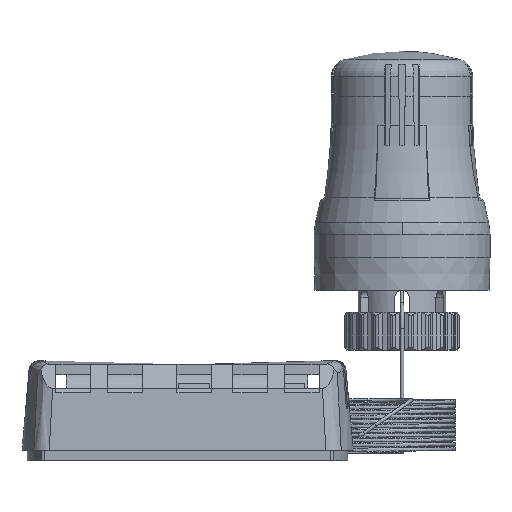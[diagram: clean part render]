
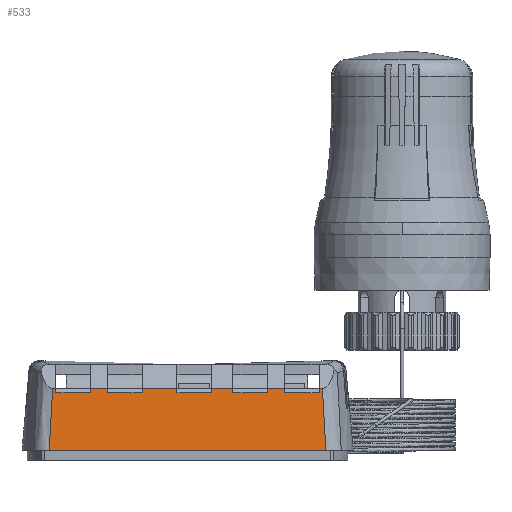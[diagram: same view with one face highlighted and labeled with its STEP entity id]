
A CAD part, left-side view. The second image highlights one B-rep face of the part: STEP entity #533.
In plain terms, the highlighted planar face has unit normal (-0.996, 0, 0.087).
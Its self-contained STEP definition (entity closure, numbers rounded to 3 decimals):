
#533=ADVANCED_FACE('',(#9763),#9765,.T.);
#9763=FACE_BOUND('',#9764,.T.);
#9764=EDGE_LOOP('',(#13633,#13634,#13635,#13636,#13637,#13638,#13639,#13640,#13641,
#13642,#13643,#13644,#13645,#13646,#13647,#13648,#13649,#13650,#13651,#13652,#13653,
#13654,#13655,#13656));
#9765=PLANE('',#9766);
#9766=AXIS2_PLACEMENT_3D('',#9767,#9768,#9769);
#9767=CARTESIAN_POINT('',(-130.803,105.18,-46.38));
#9768=DIRECTION('',(-0.996,0.,0.087));
#9769=DIRECTION('',(0.,-1.,0.));
#13633=ORIENTED_EDGE('',*,*,#15855,.T.);
#13634=ORIENTED_EDGE('',*,*,#15856,.F.);
#13635=ORIENTED_EDGE('',*,*,#15857,.T.);
#13636=ORIENTED_EDGE('',*,*,#15858,.F.);
#13637=ORIENTED_EDGE('',*,*,#15859,.T.);
#13638=ORIENTED_EDGE('',*,*,#15860,.F.);
#13639=ORIENTED_EDGE('',*,*,#15861,.T.);
#13640=ORIENTED_EDGE('',*,*,#15862,.F.);
#13641=ORIENTED_EDGE('',*,*,#15863,.T.);
#13642=ORIENTED_EDGE('',*,*,#15864,.F.);
#13643=ORIENTED_EDGE('',*,*,#15865,.T.);
#13644=ORIENTED_EDGE('',*,*,#15866,.F.);
#13645=ORIENTED_EDGE('',*,*,#15867,.T.);
#13646=ORIENTED_EDGE('',*,*,#15868,.F.);
#13647=ORIENTED_EDGE('',*,*,#15869,.T.);
#13648=ORIENTED_EDGE('',*,*,#15870,.F.);
#13649=ORIENTED_EDGE('',*,*,#15560,.T.);
#13650=ORIENTED_EDGE('',*,*,#15852,.T.);
#13651=ORIENTED_EDGE('',*,*,#15871,.T.);
#13652=ORIENTED_EDGE('',*,*,#15872,.F.);
#13653=ORIENTED_EDGE('',*,*,#15873,.T.);
#13654=ORIENTED_EDGE('',*,*,#15874,.F.);
#13655=ORIENTED_EDGE('',*,*,#15875,.T.);
#13656=ORIENTED_EDGE('',*,*,#15876,.F.);
#15560=EDGE_CURVE('',#18046,#18044,#18047,.T.);
#15852=EDGE_CURVE('',#18044,#18520,#18521,.T.);
#15855=EDGE_CURVE('',#18525,#18526,#18527,.F.);
#15856=EDGE_CURVE('',#18528,#18526,#18529,.F.);
#15857=EDGE_CURVE('',#18528,#18530,#18531,.F.);
#15858=EDGE_CURVE('',#18532,#18530,#18533,.T.);
#15859=EDGE_CURVE('',#18532,#18534,#18535,.F.);
#15860=EDGE_CURVE('',#18536,#18534,#18537,.F.);
#15861=EDGE_CURVE('',#18536,#18538,#18539,.F.);
#15862=EDGE_CURVE('',#18540,#18538,#18541,.T.);
#15863=EDGE_CURVE('',#18540,#18542,#18543,.F.);
#15864=EDGE_CURVE('',#18544,#18542,#18545,.F.);
#15865=EDGE_CURVE('',#18544,#18546,#18547,.F.);
#15866=EDGE_CURVE('',#18548,#18546,#18549,.T.);
#15867=EDGE_CURVE('',#18548,#18550,#18551,.F.);
#15868=EDGE_CURVE('',#18552,#18550,#18553,.F.);
#15869=EDGE_CURVE('',#18552,#18554,#18555,.F.);
#15870=EDGE_CURVE('',#18046,#18554,#18556,.T.);
#15871=EDGE_CURVE('',#18520,#18557,#18558,.F.);
#15872=EDGE_CURVE('',#18559,#18557,#18560,.T.);
#15873=EDGE_CURVE('',#18559,#18561,#18562,.F.);
#15874=EDGE_CURVE('',#18563,#18561,#18564,.F.);
#15875=EDGE_CURVE('',#18563,#18565,#18566,.F.);
#15876=EDGE_CURVE('',#18525,#18565,#18567,.T.);
#18044=VERTEX_POINT('',#28155);
#18046=VERTEX_POINT('',#28199);
#18047=LINE('',#28200,#28201);
#18520=VERTEX_POINT('',#30602);
#18521=B_SPLINE_CURVE_WITH_KNOTS('',3,
(#30603,#30604,#30605,#30606,#30607,#30608),
.UNSPECIFIED.,.F.,.F.,
(4,1,1,4),
(0.,0.333,0.667,1.),
.UNSPECIFIED.);
#18525=VERTEX_POINT('',#30671);
#18526=VERTEX_POINT('',#30672);
#18527=LINE('',#30673,#30674);
#18528=VERTEX_POINT('',#30676);
#18529=LINE('',#30677,#30678);
#18530=VERTEX_POINT('',#30680);
#18531=LINE('',#30681,#30682);
#18532=VERTEX_POINT('',#30684);
#18533=LINE('',#30685,#30686);
#18534=VERTEX_POINT('',#30688);
#18535=LINE('',#30689,#30690);
#18536=VERTEX_POINT('',#30692);
#18537=LINE('',#30693,#30694);
#18538=VERTEX_POINT('',#30696);
#18539=LINE('',#30697,#30698);
#18540=VERTEX_POINT('',#30700);
#18541=LINE('',#30701,#30702);
#18542=VERTEX_POINT('',#30704);
#18543=LINE('',#30705,#30706);
#18544=VERTEX_POINT('',#30708);
#18545=LINE('',#30709,#30710);
#18546=VERTEX_POINT('',#30712);
#18547=LINE('',#30713,#30714);
#18548=VERTEX_POINT('',#30716);
#18549=LINE('',#30717,#30718);
#18550=VERTEX_POINT('',#30720);
#18551=LINE('',#30721,#30722);
#18552=VERTEX_POINT('',#30724);
#18553=LINE('',#30725,#30726);
#18554=VERTEX_POINT('',#30728);
#18555=LINE('',#30729,#30730);
#18556=B_SPLINE_CURVE_WITH_KNOTS('',3,
(#30732,#30733,#30734,#30735,#30736,#30737),
.UNSPECIFIED.,.F.,.F.,
(4,1,1,4),
(0.,0.333,0.667,1.),
.UNSPECIFIED.);
#18557=VERTEX_POINT('',#30738);
#18558=LINE('',#30739,#30740);
#18559=VERTEX_POINT('',#30742);
#18560=LINE('',#30743,#30744);
#18561=VERTEX_POINT('',#30746);
#18562=LINE('',#30747,#30748);
#18563=VERTEX_POINT('',#30750);
#18564=LINE('',#30751,#30752);
#18565=VERTEX_POINT('',#30754);
#18566=LINE('',#30755,#30756);
#18567=LINE('',#30758,#30759);
#28155=CARTESIAN_POINT('',(-130.803,22.08,-46.38));
#28199=CARTESIAN_POINT('',(-130.803,102.279,-46.38));
#28200=CARTESIAN_POINT('',(-130.803,102.279,-46.38));
#28201=VECTOR('',#28202,1.);
#28202=DIRECTION('',(0.,-1.,0.));
#30602=CARTESIAN_POINT('',(-129.227,23.073,-28.358));
#30603=CARTESIAN_POINT('',(-130.803,22.08,-46.38));
#30604=CARTESIAN_POINT('',(-130.628,22.189,-44.378));
#30605=CARTESIAN_POINT('',(-130.278,22.406,-40.372));
#30606=CARTESIAN_POINT('',(-129.752,22.737,-34.365));
#30607=CARTESIAN_POINT('',(-129.402,22.96,-30.36));
#30608=CARTESIAN_POINT('',(-129.227,23.073,-28.358));
#30671=CARTESIAN_POINT('',(-129.344,39.037,-29.703));
#30672=CARTESIAN_POINT('',(-129.344,49.037,-29.703));
#30673=CARTESIAN_POINT('',(-129.344,49.037,-29.703));
#30674=VECTOR('',#30675,1.);
#30675=DIRECTION('',(0.,-1.,0.));
#30676=CARTESIAN_POINT('',(-129.227,49.037,-28.358));
#30677=CARTESIAN_POINT('',(-129.344,49.037,-29.703));
#30678=VECTOR('',#30679,1.);
#30679=DIRECTION('',(0.087,0.,0.996));
#30680=CARTESIAN_POINT('',(-129.227,55.237,-28.358));
#30681=CARTESIAN_POINT('',(-129.227,55.237,-28.358));
#30682=VECTOR('',#30683,1.);
#30683=DIRECTION('',(0.,-1.,0.));
#30684=CARTESIAN_POINT('',(-129.344,55.237,-29.703));
#30685=CARTESIAN_POINT('',(-129.344,55.237,-29.703));
#30686=VECTOR('',#30687,1.);
#30687=DIRECTION('',(0.087,0.,0.996));
#30688=CARTESIAN_POINT('',(-129.344,65.237,-29.703));
#30689=CARTESIAN_POINT('',(-129.344,65.237,-29.703));
#30690=VECTOR('',#30691,1.);
#30691=DIRECTION('',(0.,-1.,0.));
#30692=CARTESIAN_POINT('',(-129.227,65.237,-28.358));
#30693=CARTESIAN_POINT('',(-129.344,65.237,-29.703));
#30694=VECTOR('',#30695,1.);
#30695=DIRECTION('',(0.087,0.,0.996));
#30696=CARTESIAN_POINT('',(-129.227,75.337,-28.358));
#30697=CARTESIAN_POINT('',(-129.227,75.337,-28.358));
#30698=VECTOR('',#30699,1.);
#30699=DIRECTION('',(0.,-1.,0.));
#30700=CARTESIAN_POINT('',(-129.344,75.337,-29.703));
#30701=CARTESIAN_POINT('',(-129.344,75.337,-29.703));
#30702=VECTOR('',#30703,1.);
#30703=DIRECTION('',(0.087,0.,0.996));
#30704=CARTESIAN_POINT('',(-129.344,85.337,-29.703));
#30705=CARTESIAN_POINT('',(-129.344,85.337,-29.703));
#30706=VECTOR('',#30707,1.);
#30707=DIRECTION('',(0.,-1.,0.));
#30708=CARTESIAN_POINT('',(-129.227,85.337,-28.358));
#30709=CARTESIAN_POINT('',(-129.344,85.337,-29.703));
#30710=VECTOR('',#30711,1.);
#30711=DIRECTION('',(0.087,0.,0.996));
#30712=CARTESIAN_POINT('',(-129.227,90.337,-28.358));
#30713=CARTESIAN_POINT('',(-129.227,90.337,-28.358));
#30714=VECTOR('',#30715,1.);
#30715=DIRECTION('',(0.,-1.,0.));
#30716=CARTESIAN_POINT('',(-129.344,90.337,-29.703));
#30717=CARTESIAN_POINT('',(-129.344,90.337,-29.703));
#30718=VECTOR('',#30719,1.);
#30719=DIRECTION('',(0.087,0.,0.996));
#30720=CARTESIAN_POINT('',(-129.344,100.337,-29.703));
#30721=CARTESIAN_POINT('',(-129.344,100.337,-29.703));
#30722=VECTOR('',#30723,1.);
#30723=DIRECTION('',(0.,-1.,0.));
#30724=CARTESIAN_POINT('',(-129.227,100.337,-28.358));
#30725=CARTESIAN_POINT('',(-129.344,100.337,-29.703));
#30726=VECTOR('',#30727,1.);
#30727=DIRECTION('',(0.087,0.,0.996));
#30728=CARTESIAN_POINT('',(-129.227,101.286,-28.358));
#30729=CARTESIAN_POINT('',(-129.227,101.286,-28.358));
#30730=VECTOR('',#30731,1.);
#30731=DIRECTION('',(0.,-1.,0.));
#30732=CARTESIAN_POINT('',(-130.803,102.279,-46.38));
#30733=CARTESIAN_POINT('',(-130.628,102.171,-44.378));
#30734=CARTESIAN_POINT('',(-130.278,101.953,-40.372));
#30735=CARTESIAN_POINT('',(-129.752,101.623,-34.365));
#30736=CARTESIAN_POINT('',(-129.402,101.399,-30.36));
#30737=CARTESIAN_POINT('',(-129.227,101.286,-28.358));
#30738=CARTESIAN_POINT('',(-129.227,24.037,-28.358));
#30739=CARTESIAN_POINT('',(-129.227,24.037,-28.358));
#30740=VECTOR('',#30741,1.);
#30741=DIRECTION('',(0.,-1.,0.));
#30742=CARTESIAN_POINT('',(-129.344,24.037,-29.703));
#30743=CARTESIAN_POINT('',(-129.344,24.037,-29.703));
#30744=VECTOR('',#30745,1.);
#30745=DIRECTION('',(0.087,0.,0.996));
#30746=CARTESIAN_POINT('',(-129.344,34.037,-29.703));
#30747=CARTESIAN_POINT('',(-129.344,34.037,-29.703));
#30748=VECTOR('',#30749,1.);
#30749=DIRECTION('',(0.,-1.,0.));
#30750=CARTESIAN_POINT('',(-129.227,34.037,-28.358));
#30751=CARTESIAN_POINT('',(-129.344,34.037,-29.703));
#30752=VECTOR('',#30753,1.);
#30753=DIRECTION('',(0.087,0.,0.996));
#30754=CARTESIAN_POINT('',(-129.227,39.037,-28.358));
#30755=CARTESIAN_POINT('',(-129.227,39.037,-28.358));
#30756=VECTOR('',#30757,1.);
#30757=DIRECTION('',(0.,-1.,0.));
#30758=CARTESIAN_POINT('',(-129.344,39.037,-29.703));
#30759=VECTOR('',#30760,1.);
#30760=DIRECTION('',(0.087,0.,0.996));
